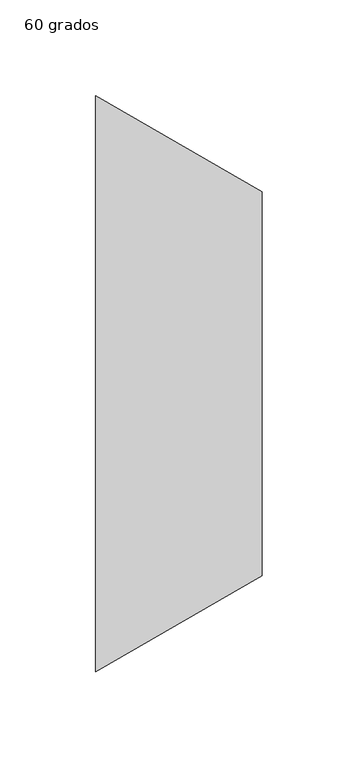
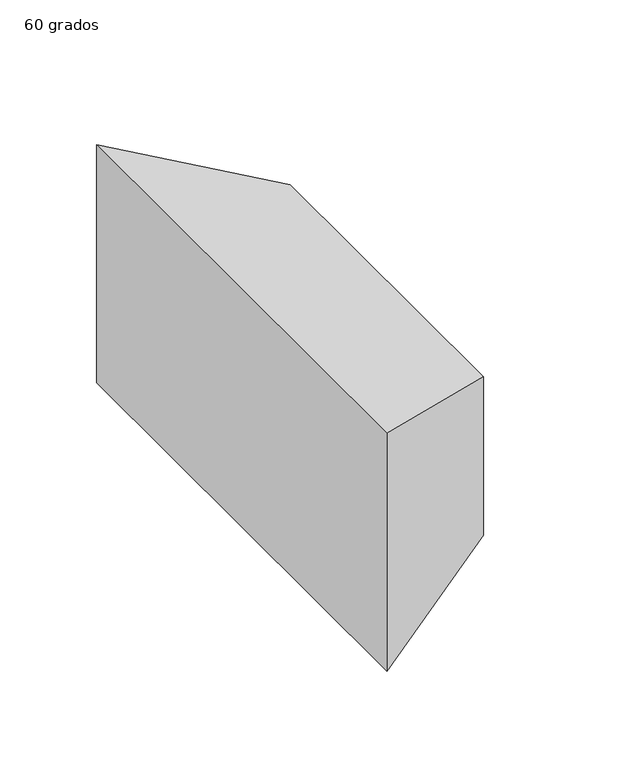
"""IFC4 building model written with IfcOpenShell, lengths in millimetres: duct fitting geometry, M_Transición rectangular - Ángulo : 60 grados."""

from ifc_helpers import new_model, si_unit, origin, place, context, project, spatial, faceted_brep, source, transform, mapped, element, save


def duct_fitting_60_grados_1d4f8573(model_context):
    return source(origin(), model_context, "Body", "Brep", [
        faceted_brep([(86.6025404, -100.0, 50.0), (86.6025404, -100.0, -50.0), (86.6025404, 100.0, -50.0), (86.6025404, 100.0, 50.0), (0.0, -150.0, 75.0), (0.0, 150.0, 75.0), (0.0, 150.0, -75.0), (0.0, -150.0, -75.0)], [[[0, 1, 2, 3]], [[4, 5, 6, 7]], [[4, 7, 1, 0]], [[7, 6, 2, 1]], [[6, 5, 3, 2]], [[5, 4, 0, 3]]]),
    ])


if __name__ == "__main__":
    model = new_model("IFC4")
    model_context = context("Model", 3, world=origin())
    ifc_project = project(units=[si_unit("LENGTHUNIT", "METRE", prefix="MILLI")], contexts=[model_context])
    site = spatial("IfcSite", under=ifc_project)
    building = spatial("IfcBuilding", under=site)
    placement = place(None, origin())
    duct_fitting_60_grados_shape = duct_fitting_60_grados_1d4f8573(model_context)
    element("IfcDuctFitting", 1, ObjectType="M_Transición rectangular - Ángulo : 60 grados", at=placement, inside=building, context=model_context, shape_type="MappedRepresentation", body=[
        mapped(duct_fitting_60_grados_shape, transform((0.0, 0.0, 0.0), x_axis=(1.0, 0.0, 0.0), y_axis=(0.0, 1.0, 0.0), z_axis=(0.0, 0.0, 1.0))),
    ])
    save(model, "model.ifc")
